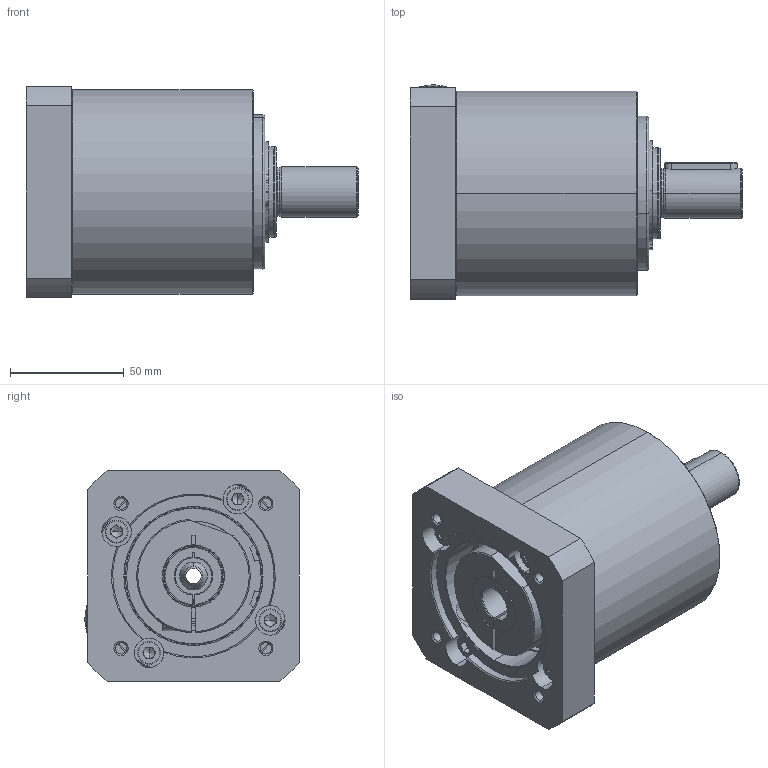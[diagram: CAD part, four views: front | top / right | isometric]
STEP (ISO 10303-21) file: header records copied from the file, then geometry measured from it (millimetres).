
FILE_DESCRIPTION (( 'STEP AP214' ), '1' );
FILE_NAME ('AL-020-0RR-FFF-MMM-S-LL-XXX-AXX-0000.STEP', '2019-10-23T15:26:16', ( '' ), ( '' ), 'SwSTEP 2.0', 'SolidWorks 2019', '' );
FILE_SCHEMA (( 'AUTOMOTIVE_DESIGN' ));
Length unit declared in the file: millimetre
Products named in the file (1): AL-020-0RR-FFF-MMM-S-LL-XXX-AXX-0000
Bounding box: 146 x 94.27 x 93 mm (x, y, z)
Surface area: 74563.8 mm2 (no closed solid volume)
Topology: 0 solids, 22 shells, 284 faces, 874 edges, 596 vertices
Faces by surface type: cylinder 105, plane 81, cone 60, torus 34, bspline 2, sphere 2
Entity records: 13402 total; most frequent: CARTESIAN_POINT 2519, DIRECTION 1711, ORIENTED_EDGE 1423, EDGE_CURVE 866, AXIS2_PLACEMENT_3D 675, VERTEX_POINT 596, CIRCLE 392, VECTOR 361
